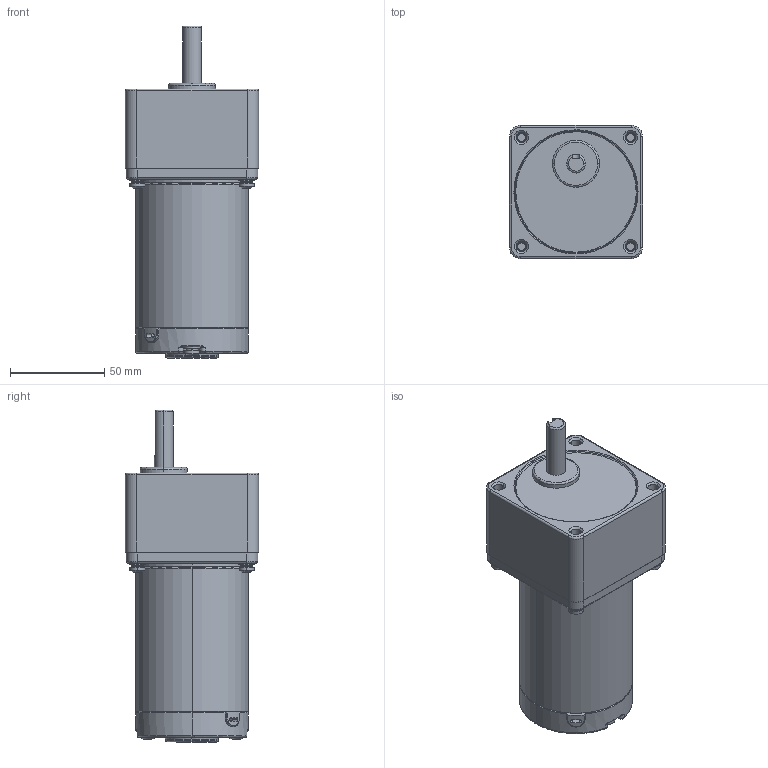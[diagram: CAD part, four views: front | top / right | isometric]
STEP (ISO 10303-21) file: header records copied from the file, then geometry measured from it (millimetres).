
FILE_DESCRIPTION (( 'STEP AP203' ), '1' );
FILE_NAME ('70 77儂褲囀离.STEP', '2021-07-13T08:33:22', ( '' ), ( '' ), 'SwSTEP 2.0', 'SolidWorks 2019', '' );
FILE_SCHEMA (( 'CONFIG_CONTROL_DESIGN' ));
Length unit declared in the file: millimetre
Products named in the file (12): 蚾饜极32^70 51儂褲囀离; TANDIAN; QIANGAI-70; JIKE; 70 77儂褲囀离; PENGDIAN; 蚾饜极31^70 51儂褲囀离; HOUGAI; 70喘謫眊_1; 装配体43^装配体31_70 51机壳内置; LUDING; 装配体44^装配体32_70 51机壳内置
Assembly tree (26 placements, depth 4):
  70 77儂褲囀离
    TANDIAN  x4
    蚾饜极31^70 51儂褲囀离
      装配体43^装配体31_70 51机壳内置
        LUDING
        TANDIAN
        PENGDIAN
    蚾饜极32^70 51儂褲囀离
      装配体44^装配体32_70 51机壳内置
        LUDING
        TANDIAN
        PENGDIAN
    LUDING  x4
    PENGDIAN  x4
    HOUGAI
    QIANGAI-70
    JIKE
    70喘謫眊_1
Bounding box: 70.8 x 70.8 x 176.5 mm (x, y, z)
Volume: 279402.5 mm3; surface area: 81377.5 mm2
Topology: 23 solids, 23 shells, 607 faces, 1422 edges, 861 vertices
Faces by surface type: cylinder 198, cone 193, plane 147, bspline 65, torus 4
Entity records: 11942 total; most frequent: CARTESIAN_POINT 3849, DIRECTION 1390, ORIENTED_EDGE 1332, EDGE_CURVE 666, AXIS2_PLACEMENT_3D 569, VERTEX_POINT 411, EDGE_LOOP 321, CIRCLE 304
